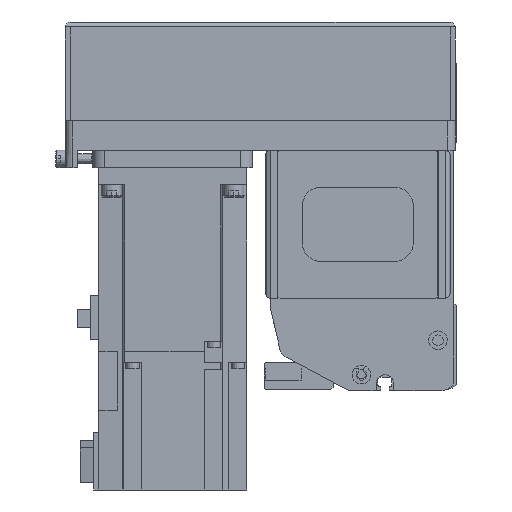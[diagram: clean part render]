
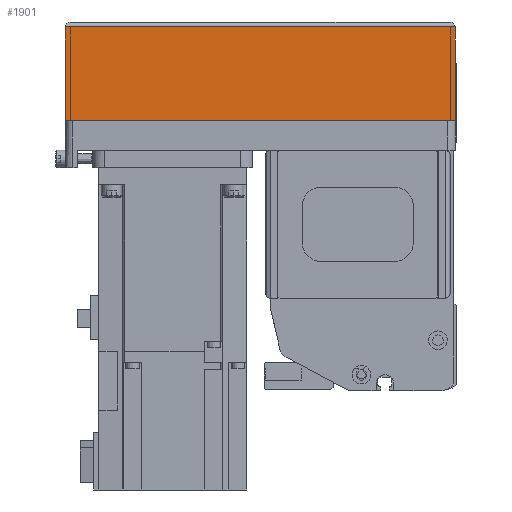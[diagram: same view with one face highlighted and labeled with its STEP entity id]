
A CAD part, left-side view. The second image highlights one B-rep face of the part: STEP entity #1901.
In plain terms, the highlighted planar face has unit normal (-1, 0, 0) as drawn and (0, 1, 0) by its records, which use the part's own axes.
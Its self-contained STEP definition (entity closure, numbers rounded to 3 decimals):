
#1901 = ADVANCED_FACE( '', ( #4633 ), #4634, .T. );
#4633 = FACE_OUTER_BOUND( '', #8374, .T. );
#4634 = PLANE( '', #8375 );
#8374 = EDGE_LOOP( '', ( #13747, #13748, #13749, #13750 ) );
#8375 = AXIS2_PLACEMENT_3D( '', #13751, #13752, #13753 );
#13747 = ORIENTED_EDGE( '', *, *, #22314, .F. );
#13748 = ORIENTED_EDGE( '', *, *, #22315, .F. );
#13749 = ORIENTED_EDGE( '', *, *, #22316, .T. );
#13750 = ORIENTED_EDGE( '', *, *, #22317, .T. );
#13751 = CARTESIAN_POINT( '', ( -158., 39., -50. ) );
#13752 = DIRECTION( '', ( 0., 1., 0. ) );
#13753 = DIRECTION( '', ( 0., 0., 1. ) );
#22314 = EDGE_CURVE( '', #27180, #27181, #27182, .T. );
#22315 = EDGE_CURVE( '', #27183, #27180, #27184, .T. );
#22316 = EDGE_CURVE( '', #27183, #27185, #27186, .T. );
#22317 = EDGE_CURVE( '', #27185, #27181, #27187, .T. );
#27180 = VERTEX_POINT( '', #34141 );
#27181 = VERTEX_POINT( '', #34142 );
#27182 = LINE( '', #34143, #34144 );
#27183 = VERTEX_POINT( '', #34145 );
#27184 = LINE( '', #34146, #34147 );
#27185 = VERTEX_POINT( '', #34148 );
#27186 = LINE( '', #34149, #34150 );
#27187 = LINE( '', #34151, #34152 );
#34141 = CARTESIAN_POINT( '', ( 0., 39., -50. ) );
#34142 = CARTESIAN_POINT( '', ( 0., 39., -12.1 ) );
#34143 = CARTESIAN_POINT( '', ( 0., 39., -50. ) );
#34144 = VECTOR( '', #41068, 1000. );
#34145 = CARTESIAN_POINT( '', ( -158., 39., -50. ) );
#34146 = CARTESIAN_POINT( '', ( -158., 39., -50. ) );
#34147 = VECTOR( '', #41069, 1000. );
#34148 = CARTESIAN_POINT( '', ( -158., 39., -12.1 ) );
#34149 = CARTESIAN_POINT( '', ( -158., 39., -50. ) );
#34150 = VECTOR( '', #41070, 1000. );
#34151 = CARTESIAN_POINT( '', ( -158., 39., -12.1 ) );
#34152 = VECTOR( '', #41071, 1000. );
#41068 = DIRECTION( '', ( 0., 0., 1. ) );
#41069 = DIRECTION( '', ( 1., 0., 0. ) );
#41070 = DIRECTION( '', ( 0., 0., 1. ) );
#41071 = DIRECTION( '', ( 1., 0., 0. ) );
